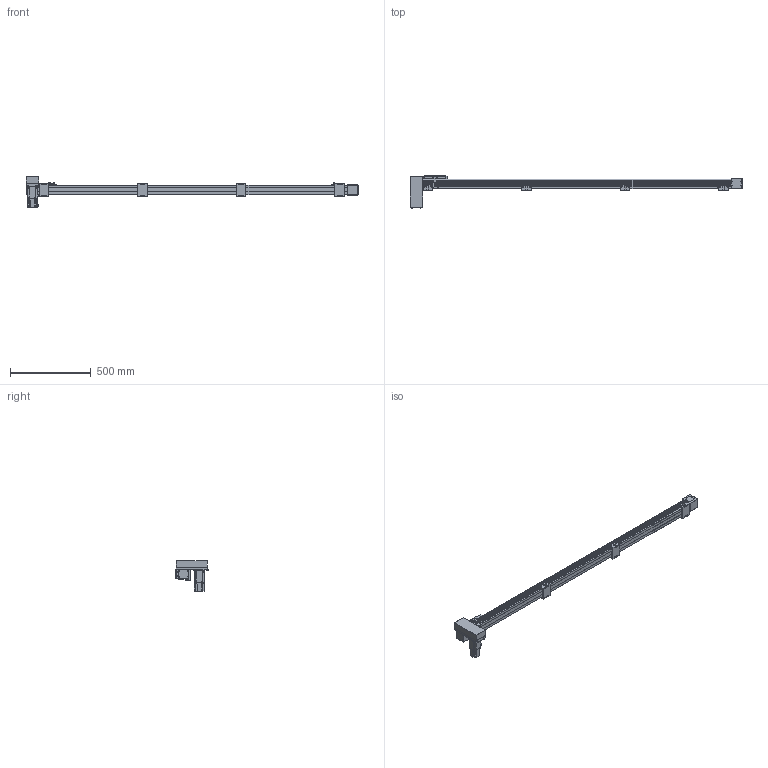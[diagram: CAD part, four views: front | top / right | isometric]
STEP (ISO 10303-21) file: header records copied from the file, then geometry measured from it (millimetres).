
FILE_DESCRIPTION(/* description */ ('STEP AP214'),/* implementation_level */ '2;1');
FILE_NAME(/* name */ 'SK60-P13-S1750-RD-T40-C1-N(0)',/* time_stamp */ '2023-04-06T04:56:20+02:00',/* author */ ('License CC BY-ND 4.0'),/* organization */ ('CADENAS'),/* preprocessor_version */ 'ST-DEVELOPER v19.3',/* originating_system */ 'PARTsolutions',/* authorisation */ ' ');
FILE_SCHEMA (('AUTOMOTIVE_DESIGN {1 0 10303 214 3 1 1}'));
Length unit declared in the file: millimetre
Products named in the file (10): SK60-P13-S1750-RD-T40-C1-N(0); PSC140-sensor; SK60-S450_seat; SK60-S450-BL-C1_slider; SK60_body3; SK60_body6; SK60-BL_body2; T40-p1; SK60-RD_fb; SK60-S1750-RD-C1_body
Assembly tree (18 placements, depth 2):
  SK60-P13-S1750-RD-T40-C1-N(0)
    PSC140-sensor  x3
    SK60-S450_seat  x4
    SK60-S450-BL-C1_slider
    SK60_body3  x3
    SK60_body6  x2
    SK60-BL_body2  x2
    T40-p1
    SK60-RD_fb
    SK60-S1750-RD-C1_body
Bounding box: 2055.5 x 199 x 189.7 mm (x, y, z)
Volume: 8179586.6 mm3; surface area: 986920 mm2
Topology: 18 solids, 18 shells, 898 faces, 2244 edges, 1477 vertices
Faces by surface type: plane 572, cylinder 294, cone 30, torus 2
Full cylindrical faces by diameter (mm): 2.8 x3, 3.3 x4, 4 x2, 4.5 x30, 4.6 x3, 4.917 x24, 5 x6, 5.478 x4, 5.5 x27, 6.5 x8, 7 x2, 8 x4, 8.5 x4, 9.988 x4, 10 x16, 14 x1, 47 x3, 50 x2
Entity records: 18671 total; most frequent: DIRECTION 3188, CARTESIAN_POINT 3152, ORIENTED_EDGE 2940, EDGE_CURVE 1470, AXIS2_PLACEMENT_3D 1070, LINE 1048, VECTOR 1048, VERTEX_POINT 1034
